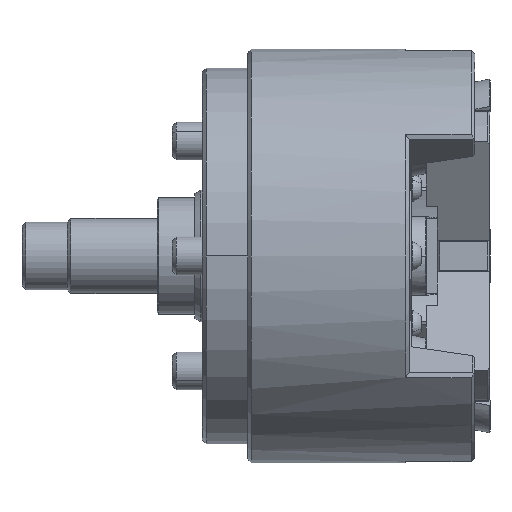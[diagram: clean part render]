
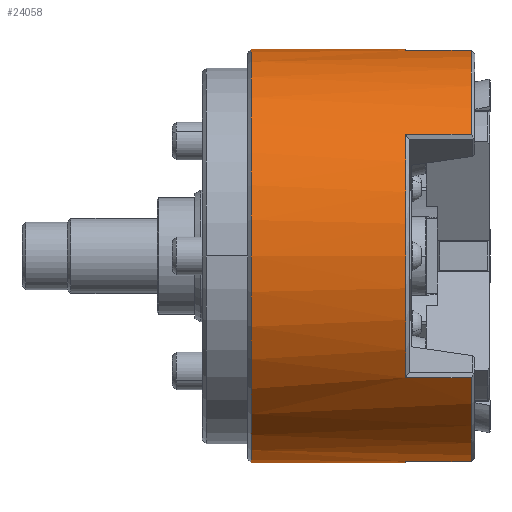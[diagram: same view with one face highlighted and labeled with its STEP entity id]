
A CAD part, front view. The second image highlights one B-rep face of the part: STEP entity #24058.
In plain terms, the highlighted cylindrical face has radius 55 mm (diameter 110 mm), a partial arc.
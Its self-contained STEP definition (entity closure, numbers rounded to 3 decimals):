
#512 = AXIS2_PLACEMENT_3D ( 'NONE', #12548, #12503, #12555 ) ;
#841 = CARTESIAN_POINT ( 'NONE',  ( 17., -5.78, -54.695 ) ) ;
#1251 = CARTESIAN_POINT ( 'NONE',  ( 17., -44.478, 32.353 ) ) ;
#1281 = CIRCLE ( 'NONE', #26509, 55. ) ;
#1283 = AXIS2_PLACEMENT_3D ( 'NONE', #13300, #13094, #13075 ) ;
#1506 = ORIENTED_EDGE ( 'NONE', *, *, #9838, .F. ) ;
#1735 = EDGE_CURVE ( 'NONE', #18419, #13380, #3836, .T. ) ;
#1976 = DIRECTION ( 'NONE',  ( 0., 0., 1. ) ) ;
#1982 = DIRECTION ( 'NONE',  ( -1., 0., 0. ) ) ;
#2014 = CARTESIAN_POINT ( 'NONE',  ( -0.473, 0., 0. ) ) ;
#2153 = VERTEX_POINT ( 'NONE', #19367 ) ;
#2526 = AXIS2_PLACEMENT_3D ( 'NONE', #2014, #1982, #1976 ) ;
#2878 = CARTESIAN_POINT ( 'NONE',  ( -41.5, 0., 55. ) ) ;
#3072 = EDGE_CURVE ( 'NONE', #13050, #30470, #29459, .T. ) ;
#3361 = VECTOR ( 'NONE', #22305, 1000. ) ;
#3394 = LINE ( 'NONE', #22408, #3361 ) ;
#3836 = CIRCLE ( 'NONE', #30473, 55. ) ;
#4575 = DIRECTION ( 'NONE',  ( 0., 0., -1. ) ) ;
#4602 = DIRECTION ( 'NONE',  ( 1., 0., 0. ) ) ;
#4611 = CARTESIAN_POINT ( 'NONE',  ( -41.5, 0., 0. ) ) ;
#4781 = EDGE_LOOP ( 'NONE', ( #7226, #18484, #15670, #22410, #29734, #1506, #13566, #14314, #14919, #20243, #20849, #21311 ) ) ;
#5084 = DIRECTION ( 'NONE',  ( 1., 0., 0. ) ) ;
#5113 = CARTESIAN_POINT ( 'NONE',  ( 63.843, -44.478, 32.353 ) ) ;
#6313 = VECTOR ( 'NONE', #21048, 1000. ) ;
#6342 = LINE ( 'NONE', #21221, #6313 ) ;
#7036 = CARTESIAN_POINT ( 'NONE',  ( 17., -44.478, -32.353 ) ) ;
#7112 = FACE_OUTER_BOUND ( 'NONE', #4781, .T. ) ;
#7226 = ORIENTED_EDGE ( 'NONE', *, *, #16688, .F. ) ;
#7551 = CYLINDRICAL_SURFACE ( 'NONE', #512, 55. ) ;
#7606 = DIRECTION ( 'NONE',  ( 0., 0., 1. ) ) ;
#7639 = DIRECTION ( 'NONE',  ( -1., 0., 0. ) ) ;
#7668 = CARTESIAN_POINT ( 'NONE',  ( -0.473, 0., 0. ) ) ;
#7727 = CARTESIAN_POINT ( 'NONE',  ( -41.5, 0., -55. ) ) ;
#8238 = EDGE_CURVE ( 'NONE', #30470, #21042, #15904, .T. ) ;
#8424 = CARTESIAN_POINT ( 'NONE',  ( 63.843, 0., -55. ) ) ;
#8767 = DIRECTION ( 'NONE',  ( 0., 0., -1. ) ) ;
#8901 = CARTESIAN_POINT ( 'NONE',  ( -0.473, -5.78, 54.695 ) ) ;
#8936 = VECTOR ( 'NONE', #27450, 1000. ) ;
#8991 = LINE ( 'NONE', #27646, #8936 ) ;
#9374 = CARTESIAN_POINT ( 'NONE',  ( 17., -5.78, 54.695 ) ) ;
#9617 = LINE ( 'NONE', #19978, #9682 ) ;
#9682 = VECTOR ( 'NONE', #21832, 1000. ) ;
#9838 = EDGE_CURVE ( 'NONE', #13099, #31277, #11934, .T. ) ;
#9839 = CARTESIAN_POINT ( 'NONE',  ( -0.473, 0., -55. ) ) ;
#10096 = CARTESIAN_POINT ( 'NONE',  ( -0.473, -5.78, -54.695 ) ) ;
#10377 = EDGE_CURVE ( 'NONE', #2153, #13380, #11035, .T. ) ;
#10388 = EDGE_CURVE ( 'NONE', #10529, #13050, #10982, .T. ) ;
#10529 = VERTEX_POINT ( 'NONE', #2878 ) ;
#10962 = EDGE_CURVE ( 'NONE', #18419, #20035, #9617, .T. ) ;
#10982 = CIRCLE ( 'NONE', #17280, 55. ) ;
#11035 = LINE ( 'NONE', #5113, #11128 ) ;
#11128 = VECTOR ( 'NONE', #5084, 1000. ) ;
#11934 = CIRCLE ( 'NONE', #1283, 55. ) ;
#12071 = EDGE_CURVE ( 'NONE', #21042, #31277, #6342, .T. ) ;
#12503 = DIRECTION ( 'NONE',  ( 1., 0., 0. ) ) ;
#12548 = CARTESIAN_POINT ( 'NONE',  ( 63.843, 0., 0. ) ) ;
#12555 = DIRECTION ( 'NONE',  ( 0., 0., -1. ) ) ;
#12835 = AXIS2_PLACEMENT_3D ( 'NONE', #7668, #7639, #7606 ) ;
#13050 = VERTEX_POINT ( 'NONE', #7727 ) ;
#13075 = DIRECTION ( 'NONE',  ( 0., 0., -1. ) ) ;
#13094 = DIRECTION ( 'NONE',  ( 1., 0., 0. ) ) ;
#13099 = VERTEX_POINT ( 'NONE', #7036 ) ;
#13300 = CARTESIAN_POINT ( 'NONE',  ( 17., 0., 0. ) ) ;
#13380 = VERTEX_POINT ( 'NONE', #1251 ) ;
#13566 = ORIENTED_EDGE ( 'NONE', *, *, #20395, .T. ) ;
#13737 = EDGE_CURVE ( 'NONE', #19536, #2153, #1281, .T. ) ;
#14314 = ORIENTED_EDGE ( 'NONE', *, *, #13737, .T. ) ;
#14919 = ORIENTED_EDGE ( 'NONE', *, *, #10377, .T. ) ;
#15670 = ORIENTED_EDGE ( 'NONE', *, *, #3072, .T. ) ;
#15904 = CIRCLE ( 'NONE', #2526, 55. ) ;
#16688 = EDGE_CURVE ( 'NONE', #10529, #24932, #3394, .T. ) ;
#17280 = AXIS2_PLACEMENT_3D ( 'NONE', #4611, #4602, #4575 ) ;
#18362 = CARTESIAN_POINT ( 'NONE',  ( -0.473, -44.478, -32.353 ) ) ;
#18419 = VERTEX_POINT ( 'NONE', #9374 ) ;
#18484 = ORIENTED_EDGE ( 'NONE', *, *, #10388, .T. ) ;
#18908 = CARTESIAN_POINT ( 'NONE',  ( -0.473, 0., 55. ) ) ;
#19367 = CARTESIAN_POINT ( 'NONE',  ( -0.473, -44.478, 32.353 ) ) ;
#19536 = VERTEX_POINT ( 'NONE', #18362 ) ;
#19978 = CARTESIAN_POINT ( 'NONE',  ( 63.843, -5.78, 54.695 ) ) ;
#20035 = VERTEX_POINT ( 'NONE', #8901 ) ;
#20243 = ORIENTED_EDGE ( 'NONE', *, *, #1735, .F. ) ;
#20395 = EDGE_CURVE ( 'NONE', #13099, #19536, #8991, .T. ) ;
#20849 = ORIENTED_EDGE ( 'NONE', *, *, #10962, .T. ) ;
#21042 = VERTEX_POINT ( 'NONE', #10096 ) ;
#21048 = DIRECTION ( 'NONE',  ( 1., 0., 0. ) ) ;
#21221 = CARTESIAN_POINT ( 'NONE',  ( 63.843, -5.78, -54.695 ) ) ;
#21311 = ORIENTED_EDGE ( 'NONE', *, *, #25282, .T. ) ;
#21832 = DIRECTION ( 'NONE',  ( -1., 0., 0. ) ) ;
#22305 = DIRECTION ( 'NONE',  ( 1., 0., 0. ) ) ;
#22408 = CARTESIAN_POINT ( 'NONE',  ( 63.843, 0., 55. ) ) ;
#22410 = ORIENTED_EDGE ( 'NONE', *, *, #8238, .T. ) ;
#23117 = CARTESIAN_POINT ( 'NONE',  ( 17., 0., 0. ) ) ;
#23592 = DIRECTION ( 'NONE',  ( 0., 0., 1. ) ) ;
#23629 = DIRECTION ( 'NONE',  ( -1., 0., 0. ) ) ;
#23673 = CARTESIAN_POINT ( 'NONE',  ( -0.473, 0., 0. ) ) ;
#24058 = ADVANCED_FACE ( 'NONE', ( #7112 ), #7551, .T. ) ;
#24319 = CIRCLE ( 'NONE', #12835, 55. ) ;
#24932 = VERTEX_POINT ( 'NONE', #18908 ) ;
#25282 = EDGE_CURVE ( 'NONE', #20035, #24932, #24319, .T. ) ;
#25296 = DIRECTION ( 'NONE',  ( 1., 0., 0. ) ) ;
#26509 = AXIS2_PLACEMENT_3D ( 'NONE', #23673, #23629, #23592 ) ;
#26884 = DIRECTION ( 'NONE',  ( 1., 0., 0. ) ) ;
#27450 = DIRECTION ( 'NONE',  ( -1., 0., 0. ) ) ;
#27646 = CARTESIAN_POINT ( 'NONE',  ( 63.843, -44.478, -32.353 ) ) ;
#29459 = LINE ( 'NONE', #8424, #29554 ) ;
#29554 = VECTOR ( 'NONE', #26884, 1000. ) ;
#29734 = ORIENTED_EDGE ( 'NONE', *, *, #12071, .T. ) ;
#30470 = VERTEX_POINT ( 'NONE', #9839 ) ;
#30473 = AXIS2_PLACEMENT_3D ( 'NONE', #23117, #25296, #8767 ) ;
#31277 = VERTEX_POINT ( 'NONE', #841 ) ;
